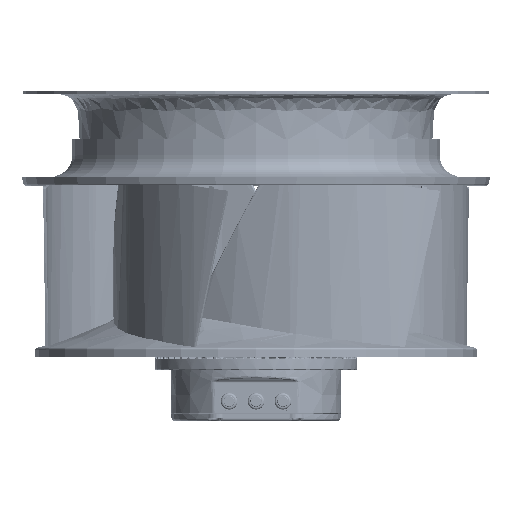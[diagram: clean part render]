
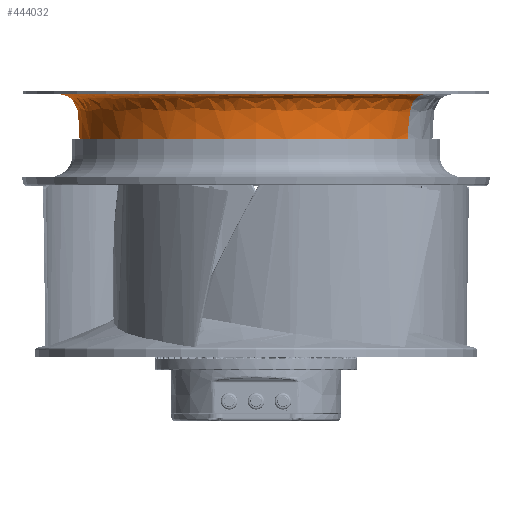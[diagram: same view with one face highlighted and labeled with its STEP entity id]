
A CAD part, top view. The second image highlights one B-rep face of the part: STEP entity #444032.
In plain terms, the highlighted face is a revolution surface.
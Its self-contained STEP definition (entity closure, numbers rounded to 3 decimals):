
#443465=CARTESIAN_POINT('',(0.,20.036,0.));
#443466=DIRECTION('',(0.,1.,0.));
#443467=DIRECTION('',(-1.,0.,0.));
#443468=AXIS2_PLACEMENT_3D('',#443465,#443466,#443467);
#443484=CARTESIAN_POINT('',(-266.94,83.546,0.));
#443485=CARTESIAN_POINT('',(-262.593,83.615,0.));
#443486=CARTESIAN_POINT('',(-256.028,81.861,0.));
#443487=CARTESIAN_POINT('',(-249.058,76.386,0.));
#443488=CARTESIAN_POINT('',(-245.088,71.202,0.));
#443489=CARTESIAN_POINT('',(-241.9,62.067,0.));
#443490=CARTESIAN_POINT('',(-239.42,44.577,0.));
#443491=CARTESIAN_POINT('',(-238.019,29.409,0.));
#443492=CARTESIAN_POINT('',(-239.697,20.036,0.));
#443494=CARTESIAN_POINT('',(0.,83.546,0.));
#443495=DIRECTION('',(0.,1.,0.));
#443496=DIRECTION('',(-1.,0.,0.));
#443497=AXIS2_PLACEMENT_3D('',#443494,#443495,#443496);
#443499=CARTESIAN_POINT('',(266.94,83.546,0.));
#443500=CARTESIAN_POINT('',(262.593,83.615,
0.));
#443501=CARTESIAN_POINT('',(256.028,81.861,
0.));
#443502=CARTESIAN_POINT('',(249.058,76.386,
0.));
#443503=CARTESIAN_POINT('',(245.088,71.202,
0.));
#443504=CARTESIAN_POINT('',(241.9,62.067,
0.));
#443505=CARTESIAN_POINT('',(239.42,44.577,
0.));
#443506=CARTESIAN_POINT('',(238.019,29.409,
0.));
#443507=CARTESIAN_POINT('',(239.697,20.036,0.));
#443789=VERTEX_POINT('',#443484);
#443790=VERTEX_POINT('',#443492);
#443793=VERTEX_POINT('',#443499);
#443794=VERTEX_POINT('',#443507);
#444009=CARTESIAN_POINT('',(-267.719,83.52,0.));
#444010=CARTESIAN_POINT('',(-267.46,83.533,0.));
#444011=CARTESIAN_POINT('',(-262.855,83.685,0.));
#444012=CARTESIAN_POINT('',(-256.028,81.861,0.));
#444013=CARTESIAN_POINT('',(-249.058,76.386,0.));
#444014=CARTESIAN_POINT('',(-245.088,71.202,0.));
#444015=CARTESIAN_POINT('',(-241.9,62.067,0.));
#444016=CARTESIAN_POINT('',(-239.42,44.577,0.));
#444017=CARTESIAN_POINT('',(-237.995,29.145,0.));
#444018=CARTESIAN_POINT('',(-239.791,19.524,0.));
#444019=CARTESIAN_POINT('',(-239.841,19.268,0.));
#444021=CARTESIAN_POINT('',(0.,89.957,0.));
#444022=DIRECTION('',(0.,-1.,0.));
#444023=AXIS1_PLACEMENT('',#444021,#444022);
#444024=SURFACE_OF_REVOLUTION('',#444020,#444023);
#444025=ORIENTED_EDGE('',*,*,#443999,.F.);
#444027=ORIENTED_EDGE('',*,*,#444026,.T.);
#444028=ORIENTED_EDGE('',*,*,#444002,.T.);
#444029=ORIENTED_EDGE('',*,*,#443962,.F.);
#444030=EDGE_LOOP('',(#444025,#444027,#444028,#444029));
#444031=FACE_OUTER_BOUND('',#444030,.F.);
#444032=ADVANCED_FACE('',(#444031),#444024,.T.);
#443469=CIRCLE('',#443468,239.697);
#443493=B_SPLINE_CURVE_WITH_KNOTS('',3,(#443484,#443485,#443486,#443487,#443488,
#443489,#443490,#443491,#443492),.UNSPECIFIED.,.F.,.F.,(4,1,1,1,1,1,4),(0.,
0.176,0.263,0.351,0.439,
0.643,1.),.UNSPECIFIED.);
#443498=CIRCLE('',#443497,266.94);
#443508=B_SPLINE_CURVE_WITH_KNOTS('',3,(#443499,#443500,#443501,#443502,#443503,
#443504,#443505,#443506,#443507),.UNSPECIFIED.,.F.,.F.,(4,1,1,1,1,1,4),(0.,
0.176,0.263,0.351,0.439,
0.643,1.),.UNSPECIFIED.);
#443962=EDGE_CURVE('',#443790,#443794,#443469,.T.);
#443999=EDGE_CURVE('',#443789,#443790,#443493,.T.);
#444002=EDGE_CURVE('',#443793,#443794,#443508,.T.);
#444020=B_SPLINE_CURVE_WITH_KNOTS('',3,(#444009,#444010,#444011,#444012,#444013,
#444014,#444015,#444016,#444017,#444018,#444019),.UNSPECIFIED.,.F.,.F.,(4,1,1,1,
1,1,1,1,4),(0.,0.01,0.183,0.268,
0.354,0.44,0.64,0.99,1.),
.UNSPECIFIED.);
#444026=EDGE_CURVE('',#443789,#443793,#443498,.T.);
